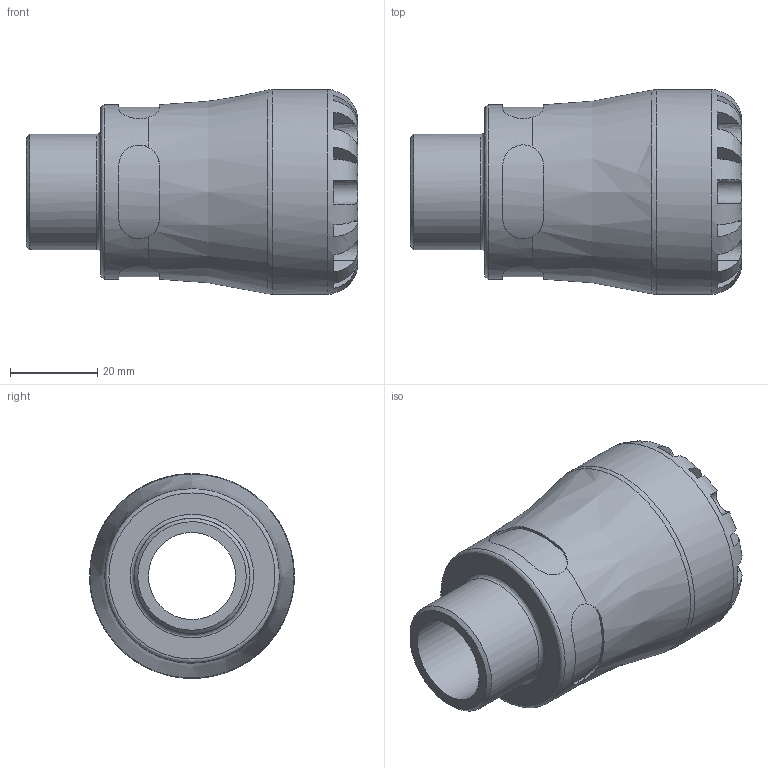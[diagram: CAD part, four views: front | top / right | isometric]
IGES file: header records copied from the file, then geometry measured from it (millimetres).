
Global section: file name: 1002A6T007007; native system: Autodesk Inventor 2019; preprocessor: unknown; author: KIM; date: 20210902.143423; units: inch
Bounding box: 75.95 x 46.99 x 46.98 mm (x, y, z)
Volume: 58450.2 mm3; surface area: 18036.7 mm2
Topology: 1 solids, 1 shells, 100 faces, 273 edges, 177 vertices
Faces by surface type: bspline 100
